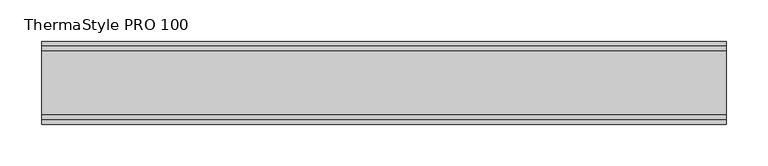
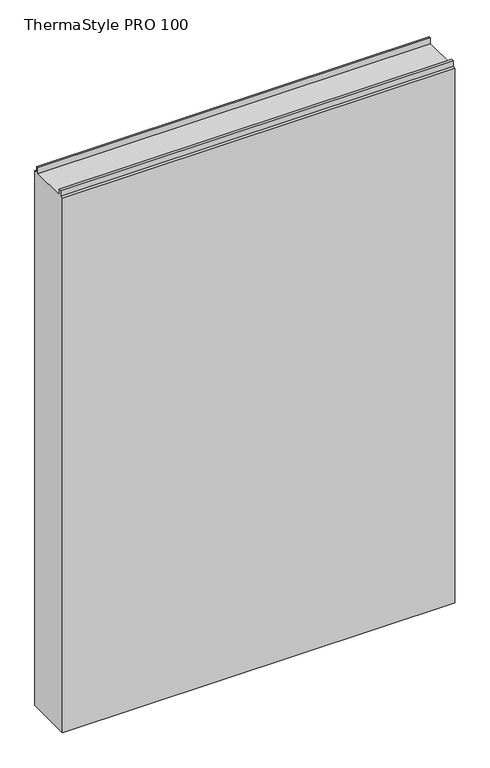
"""IFC4 building model written with IfcOpenShell, lengths in millimetres: plate geometry, Europanels_ThermaStyle PRO_Hz : ThermaStyle PRO 100."""

import ifcopenshell
import ifcopenshell.guid

model = None  # the IFC model being written
_history = None  # IfcOwnerHistory: only IFC2X3 demands one
_inside = {}  # id of a spatial element -> (the spatial element, [elements in it])
_under = {}  # id of a project, library or spatial element -> (it, [spatial elements below it])
_declared = {}  # id of a project -> (the project, [libraries it declares])
_typed = {}  # id of a type object -> (the type object, [elements of that type])
_made_of = {}  # id of a material, layer set ... -> (it, [elements and type objects made of it])


def new_model(schema):
    """Start an empty IFC model of exactly this schema.

    Asked for "IFC4X3", IfcOpenShell would pick the latest addendum, in which some entities
    have other attributes; the version numbers below select the first issue.
    IFC2X3 requires an IfcOwnerHistory on every rooted entity: one is made here for all.
    """
    global model, _history
    if schema == "IFC4X3":
        model = ifcopenshell.file(schema_version=(4, 3, 0, 0))
    else:
        model = ifcopenshell.file(schema=schema)
    _inside.clear()
    _under.clear()
    _declared.clear()
    _typed.clear()
    _made_of.clear()
    _history = None
    if model.schema == "IFC2X3":
        org = make("IfcOrganization", Name="unknown")
        user = make(
            "IfcPersonAndOrganization",
            ThePerson=make("IfcPerson", FamilyName="unknown"),
            TheOrganization=org,
        )
        app = make(
            "IfcApplication",
            ApplicationDeveloper=org,
            Version="unknown",
            ApplicationFullName="unknown",
            ApplicationIdentifier="unknown",
        )
        _history = make(
            "IfcOwnerHistory",
            OwningUser=user,
            OwningApplication=app,
            ChangeAction="ADDED",
            CreationDate=0,
        )
    return model


def make(cls, **values):
    """One entity of the class cls with the attributes given. An attribute that is None is left unset."""
    return model.create_entity(
        cls, **{name: value for name, value in values.items() if value is not None}
    )


def rooted(cls, **values):
    """An entity with a GlobalId (a new one), such as an element, a storey or a relation."""
    return make(cls, GlobalId=ifcopenshell.guid.new(), OwnerHistory=_history, **values)


def si_unit(unit_type, name, prefix=None):
    """IfcSIUnit, for example si_unit("LENGTHUNIT", "METRE", prefix="MILLI")."""
    return make("IfcSIUnit", UnitType=unit_type, Prefix=prefix, Name=name)


def assignment(units):
    """IfcUnitAssignment: the units of a project."""
    return None if units is None else make("IfcUnitAssignment", Units=units)


def point(xyz):
    """IfcCartesianPoint."""
    return None if xyz is None else make("IfcCartesianPoint", Coordinates=xyz)


def direction(xyz):
    """IfcDirection."""
    return None if xyz is None else make("IfcDirection", DirectionRatios=xyz)


def frame(location, z_axis=None, x_axis=None):
    """IfcAxis2Placement3D, a coordinate frame: its origin and axes. An axis left out is left unset."""
    return make(
        "IfcAxis2Placement3D",
        Location=point(location),
        Axis=direction(z_axis),
        RefDirection=direction(x_axis),
    )


def origin():
    """The frame at (0, 0, 0) with its axes left unset."""
    return frame((0.0, 0.0, 0.0))


def place(relative_to, where):
    """IfcLocalPlacement: puts the frame where relative to a parent placement (None: the world)."""
    return make(
        "IfcLocalPlacement", PlacementRelTo=relative_to, RelativePlacement=where
    )


def context(
    kind, dimensions, precision=None, world=None, true_north=None, identifier=None
):
    """IfcGeometricRepresentationContext, for example the 3D "Model" context."""
    return make(
        "IfcGeometricRepresentationContext",
        ContextIdentifier=identifier,
        ContextType=kind,
        CoordinateSpaceDimension=dimensions,
        Precision=precision,
        WorldCoordinateSystem=world,
        TrueNorth=true_north,
    )


def project(units=None, contexts=None):
    """IfcProject with its units and contexts."""
    return rooted(
        "IfcProject",
        Name="project",
        RepresentationContexts=contexts,
        UnitsInContext=assignment(units),
    )


def spatial(cls, under=None, at=None, **own):
    """A site, building, storey or space (cls), placed at a placement, below another one or the project."""
    s = rooted(cls, ObjectPlacement=at, **own)
    if under is not None:
        _under.setdefault(under.id(), (under, []))[1].append(s)
    return s


def polyline(points):
    """IfcPolyline through the points."""
    return make("IfcPolyline", Points=[point(p) for p in points])


def outline(outer, holes=None, kind="AREA"):
    """IfcArbitraryClosedProfileDef: a profile drawn as a closed curve; with holes, ...WithVoids."""
    if holes is None:
        return make("IfcArbitraryClosedProfileDef", ProfileType=kind, OuterCurve=outer)
    return make(
        "IfcArbitraryProfileDefWithVoids",
        ProfileType=kind,
        OuterCurve=outer,
        InnerCurves=holes,
    )


def extrude(swept, where, along, depth):
    """IfcExtrudedAreaSolid: the profile swept, set in the frame where, extruded along a direction by depth."""
    return make(
        "IfcExtrudedAreaSolid",
        SweptArea=swept,
        Position=where,
        ExtrudedDirection=direction(along),
        Depth=depth,
    )


def shape(context_of_items, identifier, shape_type, items):
    """IfcShapeRepresentation: the items that make up one representation, for example the "Body"."""
    return make(
        "IfcShapeRepresentation",
        ContextOfItems=context_of_items,
        RepresentationIdentifier=identifier,
        RepresentationType=shape_type,
        Items=items,
    )


def source(mapping_origin, context_of_items, identifier, shape_type, items):
    """IfcRepresentationMap: a shape defined once, which mapped items show again and again."""
    return make(
        "IfcRepresentationMap",
        MappingOrigin=mapping_origin,
        MappedRepresentation=shape(context_of_items, identifier, shape_type, items),
    )


def transform(
    local_origin,
    x_axis=None,
    y_axis=None,
    z_axis=None,
    scale=None,
    scale2=None,
    scale3=None,
    uniform=True,
):
    """IfcCartesianTransformationOperator3D, or its non-uniform kind. x_axis, y_axis, z_axis: its Axis1, 2, 3."""
    if uniform:
        return make(
            "IfcCartesianTransformationOperator3D",
            Axis1=direction(x_axis),
            Axis2=direction(y_axis),
            LocalOrigin=point(local_origin),
            Scale=scale,
            Axis3=direction(z_axis),
        )
    return make(
        "IfcCartesianTransformationOperator3DnonUniform",
        Axis1=direction(x_axis),
        Axis2=direction(y_axis),
        LocalOrigin=point(local_origin),
        Scale=scale,
        Axis3=direction(z_axis),
        Scale2=scale2,
        Scale3=scale3,
    )


def mapped(mapping_source, mapping_target):
    """IfcMappedItem: shows the shape of a source again, moved by a transform."""
    return make(
        "IfcMappedItem", MappingSource=mapping_source, MappingTarget=mapping_target
    )


def made_of(thing, what):
    """Note that an element or type object is made of a material, layer set ...; save() writes the relation."""
    if what is not None:
        _made_of.setdefault(what.id(), (what, []))[1].append(thing)
    return thing


def element(
    cls,
    number,
    at=None,
    inside=None,
    cuts=None,
    type_object=None,
    material=None,
    context=None,
    identifier="Body",
    shape_type=None,
    held_by="IfcProductDefinitionShape",
    body=None,
    shapes=None,
    **own,
):
    """One element of the class cls, such as IfcWall. Its Tag is "e" and its number.

    at: its placement. inside: the storey or other place that contains it. cuts: it is an
    opening in that element (IfcRelVoidsElement). A single representation is given by context,
    identifier, shape_type and body (its items); several are given by shapes. held_by: the class
    of the entity that holds the representations. save() writes the other relations.
    """
    e = rooted(cls, Tag="e%d" % number, ObjectPlacement=at, **own)
    if body is not None:
        shapes = [shape(context, identifier, shape_type, body)]
    if shapes is not None:
        e.Representation = make(held_by, Representations=shapes)
    if inside is not None:
        _inside.setdefault(inside.id(), (inside, []))[1].append(e)
    if cuts is not None:
        rooted(
            "IfcRelVoidsElement", RelatingBuildingElement=cuts, RelatedOpeningElement=e
        )
    if type_object is not None:
        _typed.setdefault(type_object.id(), (type_object, []))[1].append(e)
    return made_of(e, material)


def aggregate(whole, parts):
    """IfcRelAggregates: a whole, such as a stair, and the parts it consists of."""
    return rooted("IfcRelAggregates", RelatingObject=whole, RelatedObjects=parts)


def save(model, path):
    """Write the relations noted so far, then the file.

    IfcRelAggregates (storeys below a building ...), IfcRelContainedInSpatialStructure (elements
    in a storey), IfcRelDefinesByType, IfcRelAssociatesMaterial and IfcRelDeclares: one each for
    every whole, place, type object, material and project.
    """
    for whole, parts in _under.values():
        aggregate(whole, parts)
    for where, things in _inside.values():
        rooted(
            "IfcRelContainedInSpatialStructure",
            RelatedElements=things,
            RelatingStructure=where,
        )
    for kind, things in _typed.values():
        rooted("IfcRelDefinesByType", RelatedObjects=things, RelatingType=kind)
    for what, things in _made_of.values():
        rooted("IfcRelAssociatesMaterial", RelatedObjects=things, RelatingMaterial=what)
    for by, libraries in _declared.values():
        rooted("IfcRelDeclares", RelatingContext=by, RelatedDefinitions=libraries)
    model.write(path)


def thermastyle_pro_100_44c17304(model_context):
    return source(origin(), model_context, "Body", "SweptSolid", [
        extrude(outline(polyline([(50.0, 1189.0), (50.0, 0.0), (-50.0, 0.0), (-50.0, 1189.0), (-44.0, 1189.0), (-44.0, 1201.9631544), (-38.8855682, 1201.9631544), (-38.8855682, 1189.0), (38.8855682, 1189.0), (38.8855682, 1201.9631544), (44.0, 1201.9631544), (44.0, 1189.0), (50.0, 1189.0)])), frame((-412.5, 0.0, 0.0), z_axis=(1.0, 0.0, 0.0), x_axis=(0.0, 1.0, 0.0)), (0.0, 0.0, 1.0), 825.0),
    ])


if __name__ == "__main__":
    model = new_model("IFC4")
    model_context = context("Model", 3, world=origin())
    ifc_project = project(units=[si_unit("LENGTHUNIT", "METRE", prefix="MILLI")], contexts=[model_context])
    site = spatial("IfcSite", under=ifc_project)
    building = spatial("IfcBuilding", under=site)
    placement = place(None, origin())
    thermastyle_pro_100_shape = thermastyle_pro_100_44c17304(model_context)
    element("IfcPlate", 1, ObjectType="Europanels_ThermaStyle PRO_Hz : ThermaStyle PRO 100", at=placement, inside=building, context=model_context, shape_type="MappedRepresentation", body=[
        mapped(thermastyle_pro_100_shape, transform((0.0, 0.0, 0.0), x_axis=(1.0, 0.0, 0.0), y_axis=(0.0, 1.0, 0.0), z_axis=(0.0, 0.0, 1.0))),
    ])
    save(model, "model.ifc")
